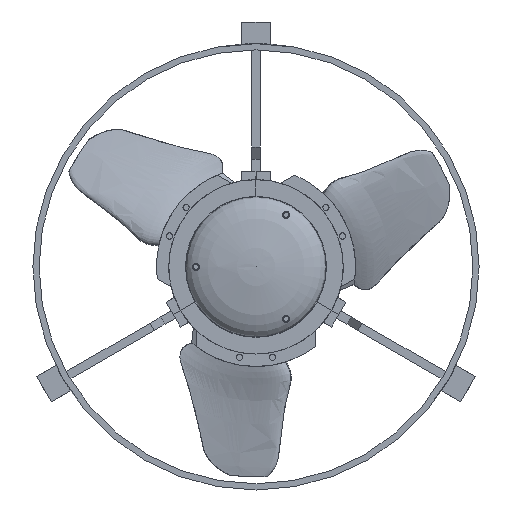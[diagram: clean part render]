
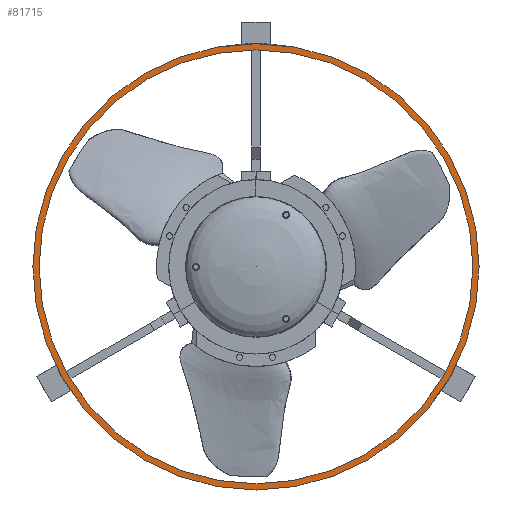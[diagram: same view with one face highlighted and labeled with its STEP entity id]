
A CAD part, left-side view. The second image highlights one B-rep face of the part: STEP entity #81715.
In plain terms, the highlighted planar face has unit normal (-1, 0, 0).
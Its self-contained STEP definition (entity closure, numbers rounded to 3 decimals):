
#81271 = EDGE_CURVE('',#81272,#81272,#81274,.T.);
#81272 = VERTEX_POINT('',#81273);
#81273 = CARTESIAN_POINT('',(-34.9,108.,0.));
#81274 = SURFACE_CURVE('',#81275,(#81280,#81292),.PCURVE_S1.);
#81275 = CIRCLE('',#81276,108.);
#81276 = AXIS2_PLACEMENT_3D('',#81277,#81278,#81279);
#81277 = CARTESIAN_POINT('',(-34.9,0.,0.));
#81278 = DIRECTION('',(1.,0.,0.));
#81279 = DIRECTION('',(0.,1.,0.));
#81280 = PCURVE('',#81281,#81286);
#81281 = CYLINDRICAL_SURFACE('',#81282,108.);
#81282 = AXIS2_PLACEMENT_3D('',#81283,#81284,#81285);
#81283 = CARTESIAN_POINT('',(-34.9,0.,0.));
#81284 = DIRECTION('',(-1.,-0.,-0.));
#81285 = DIRECTION('',(0.,1.,0.));
#81286 = DEFINITIONAL_REPRESENTATION('',(#81287),#81291);
#81287 = LINE('',#81288,#81289);
#81288 = CARTESIAN_POINT('',(-0.,0.));
#81289 = VECTOR('',#81290,1.);
#81290 = DIRECTION('',(-1.,0.));
#81291 = ( GEOMETRIC_REPRESENTATION_CONTEXT(2) 
PARAMETRIC_REPRESENTATION_CONTEXT() REPRESENTATION_CONTEXT('2D SPACE',''
  ) );
#81292 = PCURVE('',#81293,#81298);
#81293 = PLANE('',#81294);
#81294 = AXIS2_PLACEMENT_3D('',#81295,#81296,#81297);
#81295 = CARTESIAN_POINT('',(-34.9,0.,0.
    ));
#81296 = DIRECTION('',(1.,0.,0.));
#81297 = DIRECTION('',(-0.,0.,1.));
#81298 = DEFINITIONAL_REPRESENTATION('',(#81299),#81303);
#81299 = CIRCLE('',#81300,108.);
#81300 = AXIS2_PLACEMENT_2D('',#81301,#81302);
#81301 = CARTESIAN_POINT('',(0.,0.));
#81302 = DIRECTION('',(0.,-1.));
#81303 = ( GEOMETRIC_REPRESENTATION_CONTEXT(2) 
PARAMETRIC_REPRESENTATION_CONTEXT() REPRESENTATION_CONTEXT('2D SPACE',''
  ) );
#81715 = ADVANCED_FACE('',(#81716,#81719),#81293,.F.);
#81716 = FACE_BOUND('',#81717,.F.);
#81717 = EDGE_LOOP('',(#81718));
#81718 = ORIENTED_EDGE('',*,*,#81271,.T.);
#81719 = FACE_BOUND('',#81720,.F.);
#81720 = EDGE_LOOP('',(#81721));
#81721 = ORIENTED_EDGE('',*,*,#81722,.F.);
#81722 = EDGE_CURVE('',#81723,#81723,#81725,.T.);
#81723 = VERTEX_POINT('',#81724);
#81724 = CARTESIAN_POINT('',(-34.9,105.,0.));
#81725 = SURFACE_CURVE('',#81726,(#81731,#81738),.PCURVE_S1.);
#81726 = CIRCLE('',#81727,105.);
#81727 = AXIS2_PLACEMENT_3D('',#81728,#81729,#81730);
#81728 = CARTESIAN_POINT('',(-34.9,0.,0.
    ));
#81729 = DIRECTION('',(1.,0.,0.));
#81730 = DIRECTION('',(0.,1.,0.));
#81731 = PCURVE('',#81293,#81732);
#81732 = DEFINITIONAL_REPRESENTATION('',(#81733),#81737);
#81733 = CIRCLE('',#81734,105.);
#81734 = AXIS2_PLACEMENT_2D('',#81735,#81736);
#81735 = CARTESIAN_POINT('',(0.,0.));
#81736 = DIRECTION('',(0.,-1.));
#81737 = ( GEOMETRIC_REPRESENTATION_CONTEXT(2) 
PARAMETRIC_REPRESENTATION_CONTEXT() REPRESENTATION_CONTEXT('2D SPACE',''
  ) );
#81738 = PCURVE('',#81739,#81744);
#81739 = CYLINDRICAL_SURFACE('',#81740,105.);
#81740 = AXIS2_PLACEMENT_3D('',#81741,#81742,#81743);
#81741 = CARTESIAN_POINT('',(-34.9,0.,0.
    ));
#81742 = DIRECTION('',(-1.,-0.,-0.));
#81743 = DIRECTION('',(0.,1.,0.));
#81744 = DEFINITIONAL_REPRESENTATION('',(#81745),#81749);
#81745 = LINE('',#81746,#81747);
#81746 = CARTESIAN_POINT('',(-0.,0.));
#81747 = VECTOR('',#81748,1.);
#81748 = DIRECTION('',(-1.,0.));
#81749 = ( GEOMETRIC_REPRESENTATION_CONTEXT(2) 
PARAMETRIC_REPRESENTATION_CONTEXT() REPRESENTATION_CONTEXT('2D SPACE',''
  ) );
